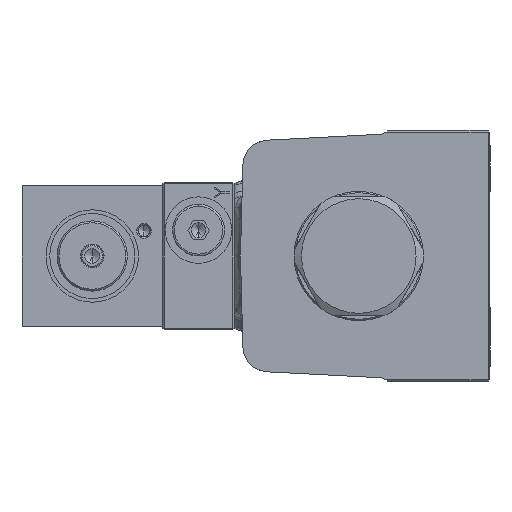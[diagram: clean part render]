
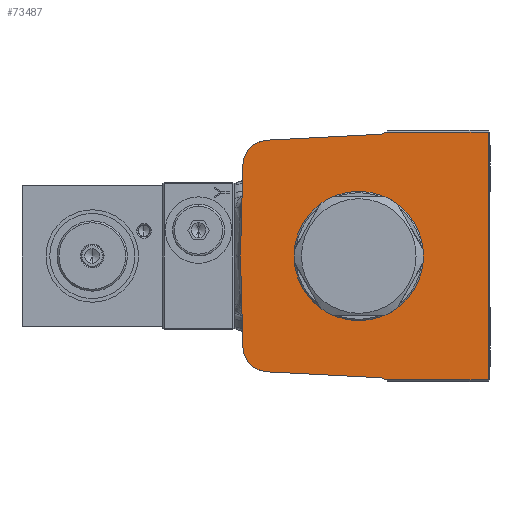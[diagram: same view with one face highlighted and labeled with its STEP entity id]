
A CAD part, left-side view. The second image highlights one B-rep face of the part: STEP entity #73487.
In plain terms, the highlighted planar face has unit normal (-1, 0, 0).
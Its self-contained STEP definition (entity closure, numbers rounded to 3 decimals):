
#539 = LINE ( 'NONE', #68420, #63222 ) ;
#1300 = CARTESIAN_POINT ( 'NONE',  ( -46.6, -5.693, -35.936 ) ) ;
#2553 = LINE ( 'NONE', #11627, #48616 ) ;
#2628 = EDGE_CURVE ( 'NONE', #19288, #17034, #62280, .T. ) ;
#2735 = VECTOR ( 'NONE', #36382, 1000. ) ;
#3266 = CARTESIAN_POINT ( 'NONE',  ( -46.6, -35., 33.5 ) ) ;
#4130 = DIRECTION ( 'NONE',  ( -1., 0., 0. ) ) ;
#4418 = DIRECTION ( 'NONE',  ( -1., 0., 0. ) ) ;
#4694 = CARTESIAN_POINT ( 'NONE',  ( -46.6, 0., 0. ) ) ;
#5250 = EDGE_CURVE ( 'NONE', #9235, #32854, #56576, .T. ) ;
#7638 = DIRECTION ( 'NONE',  ( 0., 0., 1. ) ) ;
#7919 = EDGE_CURVE ( 'NONE', #68969, #56808, #16695, .T. ) ;
#8212 = ORIENTED_EDGE ( 'NONE', *, *, #81223, .F. ) ;
#9015 = CARTESIAN_POINT ( 'NONE',  ( -46.6, 24.726, 31.337 ) ) ;
#9235 = VERTEX_POINT ( 'NONE', #38567 ) ;
#9969 = CARTESIAN_POINT ( 'NONE',  ( -46.6, -35., -33.5 ) ) ;
#10067 = CIRCLE ( 'NONE', #59986, 7. ) ;
#10163 = CARTESIAN_POINT ( 'NONE',  ( -46.6, -5.693, 35.936 ) ) ;
#10707 = ORIENTED_EDGE ( 'NONE', *, *, #5250, .T. ) ;
#11000 = DIRECTION ( 'NONE',  ( 0., -1., 0. ) ) ;
#11627 = CARTESIAN_POINT ( 'NONE',  ( -46.6, 1.706, -32.544 ) ) ;
#11879 = LINE ( 'NONE', #55828, #57893 ) ;
#12892 = ORIENTED_EDGE ( 'NONE', *, *, #64517, .T. ) ;
#13178 = AXIS2_PLACEMENT_3D ( 'NONE', #73769, #36306, #80027 ) ;
#14575 = ORIENTED_EDGE ( 'NONE', *, *, #66061, .F. ) ;
#14934 = ORIENTED_EDGE ( 'NONE', *, *, #58722, .F. ) ;
#15182 = CARTESIAN_POINT ( 'NONE',  ( -46.6, 31.358, 24.53 ) ) ;
#15236 = EDGE_CURVE ( 'NONE', #19288, #32854, #55409, .T. ) ;
#16428 = DIRECTION ( 'NONE',  ( 0., 0., 1. ) ) ;
#16695 = CIRCLE ( 'NONE', #26776, 3. ) ;
#16758 = EDGE_CURVE ( 'NONE', #77688, #61888, #70659, .T. ) ;
#17034 = VERTEX_POINT ( 'NONE', #15182 ) ;
#17153 = VERTEX_POINT ( 'NONE', #9969 ) ;
#17302 = CARTESIAN_POINT ( 'NONE',  ( -46.6, 31.358, -24.53 ) ) ;
#17719 = EDGE_LOOP ( 'NONE', ( #14575, #73705 ) ) ;
#17749 = CARTESIAN_POINT ( 'NONE',  ( -46.6, -35., -34. ) ) ;
#18720 = VECTOR ( 'NONE', #47528, 1000. ) ;
#19134 = DIRECTION ( 'NONE',  ( 0., 1., 0. ) ) ;
#19288 = VERTEX_POINT ( 'NONE', #9015 ) ;
#21302 = FACE_BOUND ( 'NONE', #17719, .T. ) ;
#22038 = EDGE_CURVE ( 'NONE', #47516, #9235, #11879, .T. ) ;
#23902 = ORIENTED_EDGE ( 'NONE', *, *, #22038, .T. ) ;
#24739 = CARTESIAN_POINT ( 'NONE',  ( -46.6, -35.5, -33.5 ) ) ;
#26265 = CARTESIAN_POINT ( 'NONE',  ( -46.6, 24.726, -31.337 ) ) ;
#26776 = AXIS2_PLACEMENT_3D ( 'NONE', #1300, #45106, #7638 ) ;
#27246 = CIRCLE ( 'NONE', #69952, 16. ) ;
#28322 = CARTESIAN_POINT ( 'NONE',  ( -46.6, 1.706, 32.544 ) ) ;
#28857 = CARTESIAN_POINT ( 'NONE',  ( -46.6, 31.978, -0.837 ) ) ;
#30256 = EDGE_CURVE ( 'NONE', #37848, #39245, #27246, .T. ) ;
#30445 = DIRECTION ( 'NONE',  ( 0., -0.999, -0.052 ) ) ;
#31727 = ORIENTED_EDGE ( 'NONE', *, *, #2628, .T. ) ;
#32854 = VERTEX_POINT ( 'NONE', #71858 ) ;
#34289 = CARTESIAN_POINT ( 'NONE',  ( -46.6, 32., 0. ) ) ;
#35388 = CARTESIAN_POINT ( 'NONE',  ( -46.6, 24.36, -24.347 ) ) ;
#36032 = LINE ( 'NONE', #17749, #2735 ) ;
#36306 = DIRECTION ( 'NONE',  ( -1., 0., 0. ) ) ;
#36382 = DIRECTION ( 'NONE',  ( 0., 0., 1. ) ) ;
#37848 = VERTEX_POINT ( 'NONE', #54881 ) ;
#38567 = CARTESIAN_POINT ( 'NONE',  ( -46.6, -7.444, 33.5 ) ) ;
#38854 = EDGE_CURVE ( 'NONE', #17153, #47516, #36032, .T. ) ;
#39245 = VERTEX_POINT ( 'NONE', #56385 ) ;
#40453 = CARTESIAN_POINT ( 'NONE',  ( -46.6, -7.444, -33.5 ) ) ;
#41651 = CARTESIAN_POINT ( 'NONE',  ( -46.6, -35.5, -34. ) ) ;
#41721 = DIRECTION ( 'NONE',  ( 0., 0., 1. ) ) ;
#41922 = CARTESIAN_POINT ( 'NONE',  ( -46.6, 0., 0. ) ) ;
#45106 = DIRECTION ( 'NONE',  ( 1., 0., 0. ) ) ;
#45701 = ORIENTED_EDGE ( 'NONE', *, *, #16758, .T. ) ;
#47516 = VERTEX_POINT ( 'NONE', #3266 ) ;
#47528 = DIRECTION ( 'NONE',  ( 0., -0.026, -1. ) ) ;
#47659 = PLANE ( 'NONE',  #50946 ) ;
#47929 = DIRECTION ( 'NONE',  ( 0., 0., 1. ) ) ;
#48217 = DIRECTION ( 'NONE',  ( 0., -1., 0. ) ) ;
#48496 = DIRECTION ( 'NONE',  ( -1., 0., 0. ) ) ;
#48616 = VECTOR ( 'NONE', #30445, 1000. ) ;
#49591 = ORIENTED_EDGE ( 'NONE', *, *, #76505, .T. ) ;
#50946 = AXIS2_PLACEMENT_3D ( 'NONE', #41651, #4130, #47929 ) ;
#51750 = VERTEX_POINT ( 'NONE', #26265 ) ;
#53907 = DIRECTION ( 'NONE',  ( 1., 0., 0. ) ) ;
#54881 = CARTESIAN_POINT ( 'NONE',  ( -46.6, 16., 0. ) ) ;
#55409 = LINE ( 'NONE', #28322, #72079 ) ;
#55805 = DIRECTION ( 'NONE',  ( 0., -0.026, 1. ) ) ;
#55828 = CARTESIAN_POINT ( 'NONE',  ( -46.6, -35.5, 33.5 ) ) ;
#56385 = CARTESIAN_POINT ( 'NONE',  ( -46.6, -16., 0. ) ) ;
#56419 = AXIS2_PLACEMENT_3D ( 'NONE', #10163, #53907, #16428 ) ;
#56576 = CIRCLE ( 'NONE', #56419, 3. ) ;
#56808 = VERTEX_POINT ( 'NONE', #40453 ) ;
#57368 = ORIENTED_EDGE ( 'NONE', *, *, #15236, .F. ) ;
#57893 = VECTOR ( 'NONE', #19134, 1000. ) ;
#57897 = VECTOR ( 'NONE', #81095, 1000. ) ;
#58722 = EDGE_CURVE ( 'NONE', #77688, #17034, #539, .T. ) ;
#59986 = AXIS2_PLACEMENT_3D ( 'NONE', #35388, #79111, #41721 ) ;
#61888 = VERTEX_POINT ( 'NONE', #17302 ) ;
#62280 = CIRCLE ( 'NONE', #13178, 7. ) ;
#63222 = VECTOR ( 'NONE', #55805, 1000. ) ;
#64517 = EDGE_CURVE ( 'NONE', #51750, #68969, #2553, .T. ) ;
#65570 = ORIENTED_EDGE ( 'NONE', *, *, #38854, .T. ) ;
#66061 = EDGE_CURVE ( 'NONE', #39245, #37848, #77369, .T. ) ;
#67848 = EDGE_LOOP ( 'NONE', ( #73971, #49591, #65570, #23902, #10707, #57368, #31727, #14934, #45701, #8212, #12892 ) ) ;
#67966 = AXIS2_PLACEMENT_3D ( 'NONE', #4694, #48496, #11000 ) ;
#68420 = CARTESIAN_POINT ( 'NONE',  ( -46.6, 31.978, 0.837 ) ) ;
#68969 = VERTEX_POINT ( 'NONE', #69333 ) ;
#69333 = CARTESIAN_POINT ( 'NONE',  ( -46.6, -5.85, -32.94 ) ) ;
#69952 = AXIS2_PLACEMENT_3D ( 'NONE', #41922, #4418, #48217 ) ;
#70659 = LINE ( 'NONE', #28857, #18720 ) ;
#71248 = FACE_OUTER_BOUND ( 'NONE', #67848, .T. ) ;
#71858 = CARTESIAN_POINT ( 'NONE',  ( -46.6, -5.85, 32.94 ) ) ;
#72079 = VECTOR ( 'NONE', #78371, 1000. ) ;
#73487 = ADVANCED_FACE ( 'NONE', ( #71248, #21302 ), #47659, .T. ) ;
#73705 = ORIENTED_EDGE ( 'NONE', *, *, #30256, .F. ) ;
#73769 = CARTESIAN_POINT ( 'NONE',  ( -46.6, 24.36, 24.347 ) ) ;
#73971 = ORIENTED_EDGE ( 'NONE', *, *, #7919, .T. ) ;
#74468 = LINE ( 'NONE', #24739, #57897 ) ;
#76505 = EDGE_CURVE ( 'NONE', #56808, #17153, #74468, .T. ) ;
#77369 = CIRCLE ( 'NONE', #67966, 16. ) ;
#77688 = VERTEX_POINT ( 'NONE', #34289 ) ;
#78371 = DIRECTION ( 'NONE',  ( 0., -0.999, 0.052 ) ) ;
#79111 = DIRECTION ( 'NONE',  ( 1., 0., 0. ) ) ;
#80027 = DIRECTION ( 'NONE',  ( 0., 0., 1. ) ) ;
#81095 = DIRECTION ( 'NONE',  ( 0., -1., 0. ) ) ;
#81223 = EDGE_CURVE ( 'NONE', #51750, #61888, #10067, .T. ) ;
